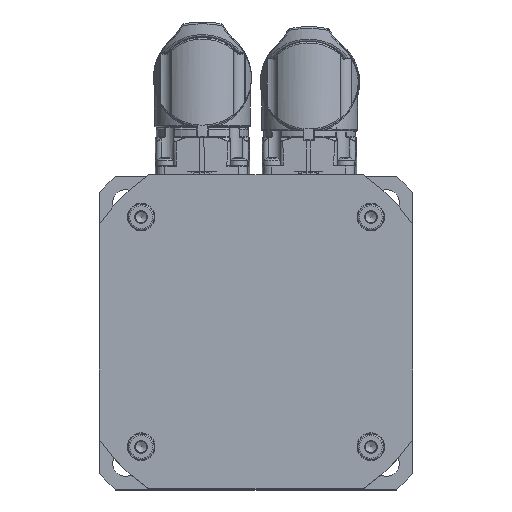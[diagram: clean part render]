
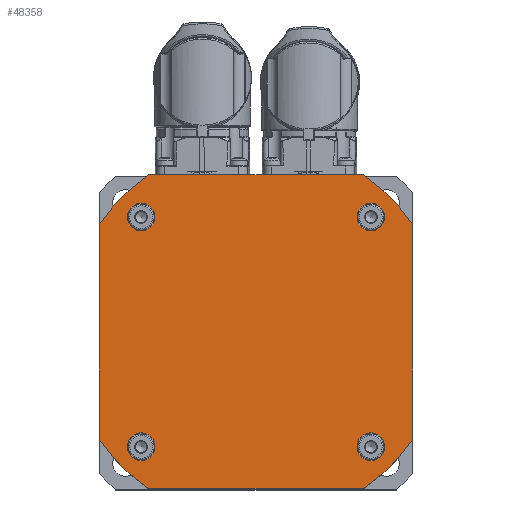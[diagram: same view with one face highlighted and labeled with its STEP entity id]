
A CAD part, top view. The second image highlights one B-rep face of the part: STEP entity #48358.
In plain terms, the highlighted planar face has unit normal (0, 0, 1).
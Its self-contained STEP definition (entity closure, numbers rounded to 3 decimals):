
#7391=LINE('',#70137,#9156);
#7397=LINE('',#70172,#9162);
#7400=LINE('',#70180,#9165);
#7404=LINE('',#70188,#9169);
#9156=VECTOR('',#57224,58.172);
#9162=VECTOR('',#57268,58.172);
#9165=VECTOR('',#57277,58.172);
#9169=VECTOR('',#57287,58.172);
#10887=PLANE('',#51540);
#11491=FACE_BOUND('',#15039,.T.);
#11492=FACE_BOUND('',#15040,.T.);
#11493=FACE_BOUND('',#15041,.T.);
#11494=FACE_BOUND('',#15042,.T.);
#11495=FACE_BOUND('',#15043,.T.);
#15039=EDGE_LOOP('',(#33265));
#15040=EDGE_LOOP('',(#33266));
#15041=EDGE_LOOP('',(#33267));
#15042=EDGE_LOOP('',(#33268));
#15043=EDGE_LOOP('',(#33269,#33270,#33271,#33272,#33273,#33274,#33275,#33276));
#18445=CIRCLE('',#51513,51.5);
#18446=CIRCLE('',#51516,3.75);
#18448=CIRCLE('',#51520,3.75);
#18450=CIRCLE('',#51524,3.75);
#18452=CIRCLE('',#51528,3.75);
#18454=CIRCLE('',#51532,51.5);
#18455=CIRCLE('',#51535,51.5);
#18456=CIRCLE('',#51538,51.5);
#21231=VERTEX_POINT('',#70130);
#21232=VERTEX_POINT('',#70132);
#21233=VERTEX_POINT('',#70136);
#21234=VERTEX_POINT('',#70141);
#21236=VERTEX_POINT('',#70147);
#21238=VERTEX_POINT('',#70153);
#21240=VERTEX_POINT('',#70159);
#21242=VERTEX_POINT('',#70165);
#21243=VERTEX_POINT('',#70167);
#21244=VERTEX_POINT('',#70174);
#21245=VERTEX_POINT('',#70179);
#21246=VERTEX_POINT('',#70183);
#25813=EDGE_CURVE('',#21232,#21231,#18445,.T.);
#25815=EDGE_CURVE('',#21233,#21232,#7391,.T.);
#25818=EDGE_CURVE('',#21234,#21234,#18446,.T.);
#25820=EDGE_CURVE('',#21236,#21236,#18448,.T.);
#25822=EDGE_CURVE('',#21238,#21238,#18450,.T.);
#25824=EDGE_CURVE('',#21240,#21240,#18452,.T.);
#25827=EDGE_CURVE('',#21243,#21242,#18454,.T.);
#25830=EDGE_CURVE('',#21231,#21243,#7397,.T.);
#25831=EDGE_CURVE('',#21244,#21233,#18455,.T.);
#25834=EDGE_CURVE('',#21245,#21244,#7400,.T.);
#25836=EDGE_CURVE('',#21246,#21245,#18456,.T.);
#25839=EDGE_CURVE('',#21242,#21246,#7404,.T.);
#33265=ORIENTED_EDGE('',*,*,#25818,.T.);
#33266=ORIENTED_EDGE('',*,*,#25820,.T.);
#33267=ORIENTED_EDGE('',*,*,#25822,.T.);
#33268=ORIENTED_EDGE('',*,*,#25824,.T.);
#33269=ORIENTED_EDGE('',*,*,#25839,.T.);
#33270=ORIENTED_EDGE('',*,*,#25836,.T.);
#33271=ORIENTED_EDGE('',*,*,#25834,.T.);
#33272=ORIENTED_EDGE('',*,*,#25831,.T.);
#33273=ORIENTED_EDGE('',*,*,#25815,.T.);
#33274=ORIENTED_EDGE('',*,*,#25813,.T.);
#33275=ORIENTED_EDGE('',*,*,#25830,.T.);
#33276=ORIENTED_EDGE('',*,*,#25827,.T.);
#48358=ADVANCED_FACE('',(#11491,#11492,#11493,#11494,#11495),#10887,.T.);
#51513=AXIS2_PLACEMENT_3D('',#70133,#57219,#57220);
#51516=AXIS2_PLACEMENT_3D('',#70142,#57229,#57230);
#51520=AXIS2_PLACEMENT_3D('',#70148,#57237,#57238);
#51524=AXIS2_PLACEMENT_3D('',#70154,#57245,#57246);
#51528=AXIS2_PLACEMENT_3D('',#70160,#57253,#57254);
#51532=AXIS2_PLACEMENT_3D('',#70168,#57262,#57263);
#51535=AXIS2_PLACEMENT_3D('',#70175,#57271,#57272);
#51538=AXIS2_PLACEMENT_3D('',#70184,#57281,#57282);
#51540=AXIS2_PLACEMENT_3D('',#70189,#57288,#57289);
#57219=DIRECTION('center_axis',(0.,0.,1.));
#57220=DIRECTION('ref_axis',(0.565,-0.825,0.));
#57224=DIRECTION('',(1.,0.,0.));
#57229=DIRECTION('center_axis',(0.,0.,-1.));
#57230=DIRECTION('ref_axis',(0.,-1.,0.));
#57237=DIRECTION('center_axis',(0.,0.,-1.));
#57238=DIRECTION('ref_axis',(-1.,0.,0.));
#57245=DIRECTION('center_axis',(0.,0.,-1.));
#57246=DIRECTION('ref_axis',(0.,1.,0.));
#57253=DIRECTION('center_axis',(0.,0.,-1.));
#57254=DIRECTION('ref_axis',(1.,0.,0.));
#57262=DIRECTION('center_axis',(0.,0.,1.));
#57263=DIRECTION('ref_axis',(0.825,0.565,0.));
#57268=DIRECTION('',(0.,1.,0.));
#57271=DIRECTION('center_axis',(0.,0.,1.));
#57272=DIRECTION('ref_axis',(-0.825,-0.565,0.));
#57277=DIRECTION('',(0.,-1.,0.));
#57281=DIRECTION('center_axis',(0.,0.,1.));
#57282=DIRECTION('ref_axis',(-0.565,0.825,0.));
#57287=DIRECTION('',(-1.,0.,0.));
#57288=DIRECTION('center_axis',(0.,0.,1.));
#57289=DIRECTION('ref_axis',(1.,0.,0.));
#70130=CARTESIAN_POINT('',(42.5,-29.086,190.));
#70132=CARTESIAN_POINT('',(29.086,-42.5,190.));
#70133=CARTESIAN_POINT('Origin',(0.,0.,190.));
#70136=CARTESIAN_POINT('',(-29.086,-42.5,190.));
#70137=CARTESIAN_POINT('',(-42.5,-42.5,190.));
#70141=CARTESIAN_POINT('',(31.113,-34.863,190.));
#70142=CARTESIAN_POINT('Origin',(31.113,-31.113,190.));
#70147=CARTESIAN_POINT('',(-34.863,-31.113,190.));
#70148=CARTESIAN_POINT('Origin',(-31.113,-31.113,190.));
#70153=CARTESIAN_POINT('',(-31.113,34.863,190.));
#70154=CARTESIAN_POINT('Origin',(-31.113,31.113,190.));
#70159=CARTESIAN_POINT('',(34.863,31.113,190.));
#70160=CARTESIAN_POINT('Origin',(31.113,31.113,190.));
#70165=CARTESIAN_POINT('',(29.086,42.5,190.));
#70167=CARTESIAN_POINT('',(42.5,29.086,190.));
#70168=CARTESIAN_POINT('Origin',(0.,0.,190.));
#70172=CARTESIAN_POINT('',(42.5,-42.5,190.));
#70174=CARTESIAN_POINT('',(-42.5,-29.086,190.));
#70175=CARTESIAN_POINT('Origin',(0.,0.,190.));
#70179=CARTESIAN_POINT('',(-42.5,29.086,190.));
#70180=CARTESIAN_POINT('',(-42.5,42.5,190.));
#70183=CARTESIAN_POINT('',(-29.086,42.5,190.));
#70184=CARTESIAN_POINT('Origin',(0.,0.,190.));
#70188=CARTESIAN_POINT('',(42.5,42.5,190.));
#70189=CARTESIAN_POINT('Origin',(0.,0.,
190.));
